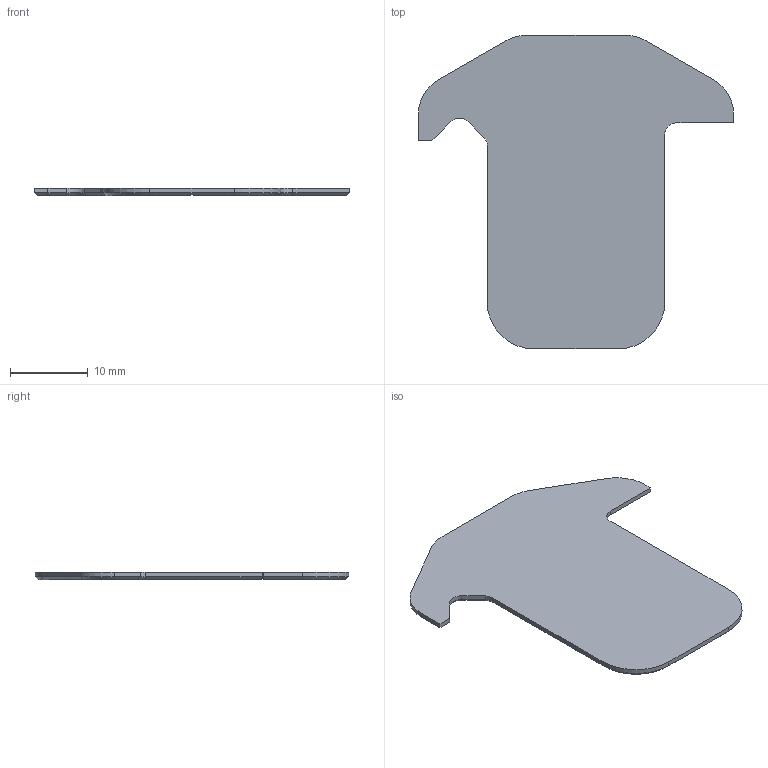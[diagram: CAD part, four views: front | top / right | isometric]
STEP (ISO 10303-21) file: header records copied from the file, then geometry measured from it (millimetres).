
FILE_DESCRIPTION((''),'2;1');
FILE_NAME('CPZ-S_0','2020-10-14T',('Administrator'),(''),'CREO PARAMETRIC BY PTC INC, 2017300','CREO PARAMETRIC BY PTC INC, 2017300','');
FILE_SCHEMA(('CONFIG_CONTROL_DESIGN'));
Length unit declared in the file: millimetre
Products named in the file (1): CPZ-S_0
Bounding box: 40.64 x 40.42 x 1 mm (x, y, z)
Volume: 1007.8 mm3; surface area: 2199.4 mm2
Topology: 1 solids, 1 shells, 150 faces, 371 edges, 239 vertices
Faces by surface type: plane 96, cylinder 43, cone 11
Entity records: 4457 total; most frequent: CARTESIAN_POINT 773, DIRECTION 765, ORIENTED_EDGE 742, EDGE_CURVE 371, VECTOR 271, LINE 271, AXIS2_PLACEMENT_3D 247, VERTEX_POINT 239
